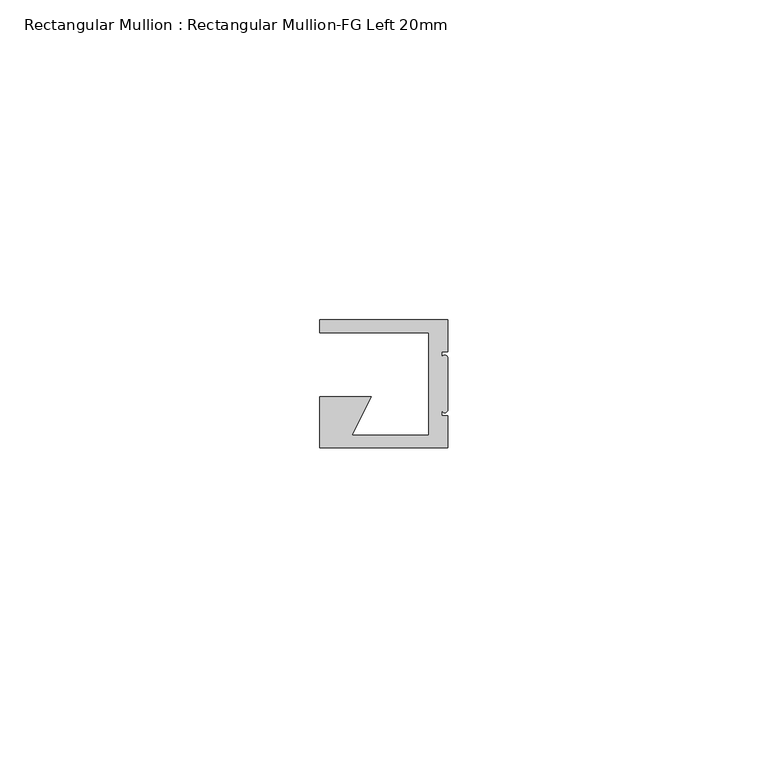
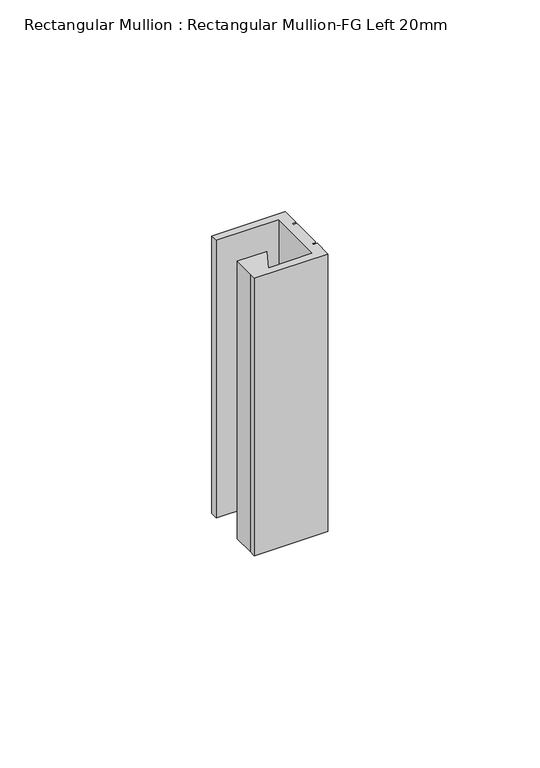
"""IFC4 building model written with IfcOpenShell, lengths in millimetres: member geometry, Rectangular Mullion : Rectangular Mullion-FG Left 20mm."""

from ifc_helpers import new_model, si_unit, point, frame, frame_2d, origin, place, context, project, spatial, polyline, circle_curve, trimmed, segment, composite_curve, outline, extrude, source, transform, mapped, element, save


def rectangular_mullion_rectangular_mullion_fg_left_20mm_8ce3ad6a(model_context):
    return source(origin(), model_context, "Body", "SweptSolid", [
        extrude(outline(composite_curve([segment(polyline([(0.0, -15.0), (0.0, -20.0), (-20.0, -20.0), (-20.0, -18.0), (-20.0, -12.0), (-12.0, -12.0), (-15.0, -18.0), (-3.0, -18.0), (-3.0, -2.0), (-20.0, -2.0), (-20.0, 0.0), (0.0, 0.0), (0.0, -5.0), (-1.0, -5.0), (-1.0, -6.0)]), True, "CONTINUOUS"), segment(trimmed(circle_curve(frame_2d((-0.5, -6.0)), 0.5), [point((-1.0, -6.0))], [point((0.0, -6.0))], False, "CARTESIAN"), True, "CONTINUOUS"), segment(polyline([(0.0, -6.0), (0.0, -14.0)]), True, "CONTINUOUS"), segment(trimmed(circle_curve(frame_2d((-0.5, -14.0)), 0.5), [point((0.0, -14.0))], [point((-1.0, -14.0))], False, "CARTESIAN"), True, "CONTINUOUS"), segment(polyline([(-1.0, -14.0), (-1.0, -15.0), (0.0, -15.0)]), True, "CONTINUOUS")], self_intersect=False)), frame((0.0, 0.0, -80.0), z_axis=(0.0, 0.0, 1.0), x_axis=(1.0, 0.0, 0.0)), (0.0, 0.0, 1.0), 80.0),
    ])


if __name__ == "__main__":
    model = new_model("IFC4")
    model_context = context("Model", 3, world=origin())
    ifc_project = project(units=[si_unit("LENGTHUNIT", "METRE", prefix="MILLI")], contexts=[model_context])
    site = spatial("IfcSite", under=ifc_project)
    building = spatial("IfcBuilding", under=site)
    placement = place(None, origin())
    rectangular_mullion_rectangular_mullion_fg_left_20mm_shape = rectangular_mullion_rectangular_mullion_fg_left_20mm_8ce3ad6a(model_context)
    element("IfcMember", 1, ObjectType="Rectangular Mullion : Rectangular Mullion-FG Left 20mm", at=placement, inside=building, context=model_context, shape_type="MappedRepresentation", body=[
        mapped(rectangular_mullion_rectangular_mullion_fg_left_20mm_shape, transform((0.0, 0.0, 0.0), x_axis=(1.0, 0.0, 0.0), y_axis=(0.0, 1.0, 0.0), z_axis=(0.0, 0.0, 1.0))),
    ])
    save(model, "model.ifc")
